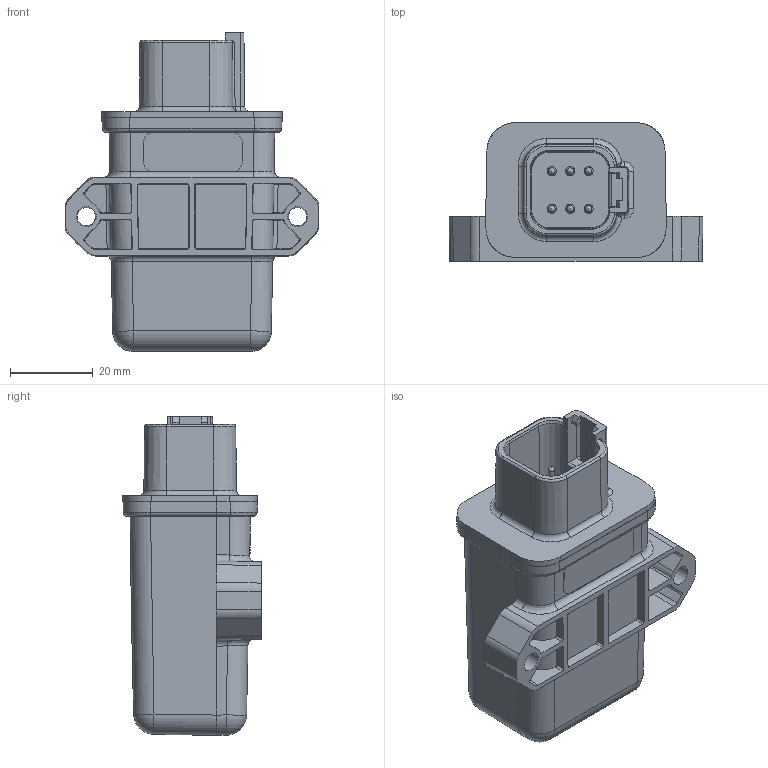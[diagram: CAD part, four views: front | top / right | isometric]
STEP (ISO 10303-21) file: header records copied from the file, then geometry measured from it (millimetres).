
FILE_DESCRIPTION(/* description */ ('nylon 6/6 30% glass fill pin block'),/* implementation_level */ '2;1');
FILE_NAME(/* name */ 'S:\Projects\LIN-CAN, AX140601, Proj_13011\UNIT ASSEMBLY\RELEASED\parts\6 pin welded housing.stp',/* time_stamp */ '2019-12-04T16:55:46-05:00',/* author */ ('tfisher'),/* organization */ (''),/* preprocessor_version */ 'ST-DEVELOPER v15.2',/* originating_system */ 'Autodesk Inventor 2014',/* authorisation */ '');
FILE_SCHEMA (('AUTOMOTIVE_DESIGN { 1 0 10303 214 3 1 1 }'));
Products named in the file (11): IJT-13011-03-R1 pin block; IJT-13011-03-R1 upper pin; IJT-13011-03-R1 lower pin; IJT-13011-03-R1; LBM-BARSNJOB-01-R1 bent; IJT-13011-02-R1 welding; IJT-13011-01-R1 welding; LBM-BARSNJOB-01-R1; MG-13011-01 for STEP; LBM-AX140600-01-R1 for STEP; FG-AX140601 for STEP
Assembly tree (14 placements, depth 4):
  FG-AX140601 for STEP
    MG-13011-01 for STEP
      IJT-13011-03-R1
        IJT-13011-03-R1 pin block
        IJT-13011-03-R1 upper pin  x3
        IJT-13011-03-R1 lower pin  x3
      LBM-BARSNJOB-01-R1 bent
      IJT-13011-02-R1 welding
      IJT-13011-01-R1 welding
      LBM-BARSNJOB-01-R1
    LBM-AX140600-01-R1 for STEP
Bounding box: 61.29 x 33.41 x 76.95 mm (x, y, z)
Volume: 24100 mm3; surface area: 30235.8 mm2
Topology: 12 solids, 12 shells, 1488 faces, 3791 edges, 2416 vertices
Faces by surface type: plane 856, bspline 279, cylinder 241, sphere 54, cone 34, torus 24
Full cylindrical faces by diameter (mm): 1.5 x2, 1.524 x21, 1.6 x6, 2.184 x6, 2.5 x4
Entity records: 52226 total; most frequent: CARTESIAN_POINT 16961, ORIENTED_EDGE 7320, DIRECTION 6062, EDGE_CURVE 3660, LINE 2450, VECTOR 2450, VERTEX_POINT 2394, AXIS2_PLACEMENT_3D 1806
